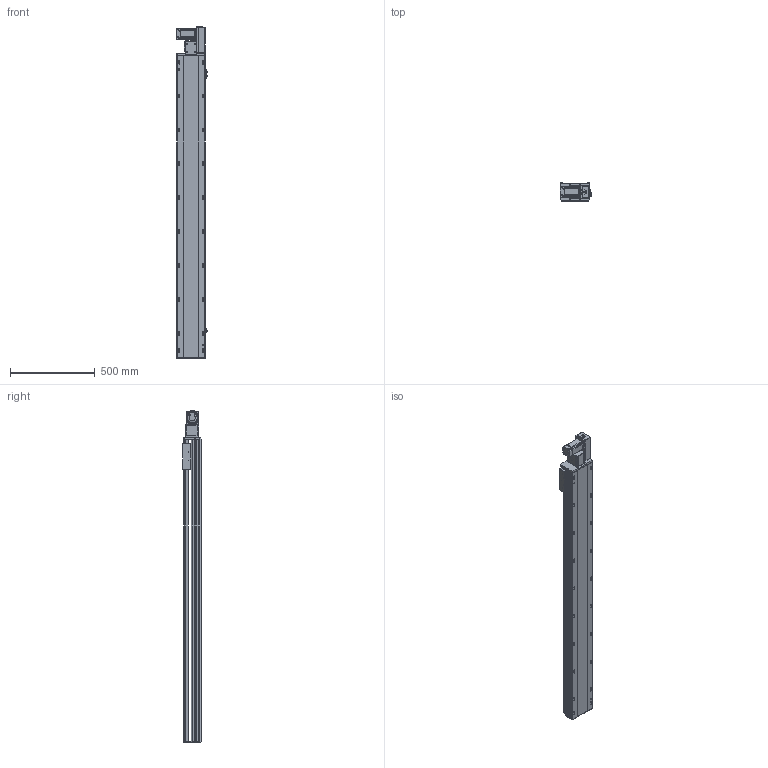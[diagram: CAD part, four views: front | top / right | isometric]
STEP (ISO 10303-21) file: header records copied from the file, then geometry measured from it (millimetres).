
FILE_DESCRIPTION (( 'STEP AP214' ), '1' );
FILE_NAME ('TPT17M-L40-1500-R-T40-C4.STEP', '2023-03-24T06:58:29', ( '' ), ( '' ), 'SwSTEP 2.0', 'SolidWorks 2020', '' );
FILE_SCHEMA (( 'AUTOMOTIVE_DESIGN' ));
Length unit declared in the file: millimetre
Products named in the file (11): TPT17M-L40-1500-R-T40-C4; hexagon head bolts-full thread gb_GB_FASTENER_BOLT_STBAB A M5X16-N; 葩璃 侂狟400W^TPT17M-L40-R-T40-C4; hexagon socket head cap screws gb_GB_FASTENER_SCREWS_HSHCS M3X6-N; 葩璃 TPT14-L-009 萇儂啣^TPT17M-L40-R-T40-C4_400W; 葩璃 TPT17-L-001 菁釱MZ-170-01^TPT17M-L40-R-T40-C4; 葩璃 TPT17-L-005 賑釱MZ-170-07^TPT17M-L40-R-T40-C4; 葩璃 pm-t65-672^TPT17M-L40-R-T40-C4; 葩璃 TPT17-L-002 奻裔MZ-170-05^TPT17M-L40-R-T40-C4; hex nuts, style 1-grades ab gb_GB_FASTENER_NUT_SNAB1 M3-N; 葩璃 TPT17-L-007 々湍釱MZ-169x88^TPT17M-L40-R-T40-C4_TPT17M
Assembly tree (22 placements, depth 2):
  TPT17M-L40-1500-R-T40-C4
    葩璃 TPT17-L-001 菁釱MZ-170-01^TPT17M-L40-R-T40-C4
    葩璃 TPT17-L-002 奻裔MZ-170-05^TPT17M-L40-R-T40-C4
    葩璃 TPT17-L-005 賑釱MZ-170-07^TPT17M-L40-R-T40-C4
    葩璃 TPT17-L-007 々湍釱MZ-169x88^TPT17M-L40-R-T40-C4_TPT17M
    葩璃 TPT14-L-009 萇儂啣^TPT17M-L40-R-T40-C4_400W
    葩璃 pm-t65-672^TPT17M-L40-R-T40-C4  x3
    葩璃 侂狟400W^TPT17M-L40-R-T40-C4
    hexagon socket head cap screws gb_GB_FASTENER_SCREWS_HSHCS M3X6-N  x6
    hex nuts, style 1-grades ab gb_GB_FASTENER_NUT_SNAB1 M3-N  x6
    hexagon head bolts-full thread gb_GB_FASTENER_BOLT_STBAB A M5X16-N
Bounding box: 186.2 x 108 x 1956.65 mm (x, y, z)
Volume: 19238509.6 mm3; surface area: 1935525.6 mm2
Topology: 30 solids, 30 shells, 1771 faces, 4538 edges, 2868 vertices
Faces by surface type: plane 927, cylinder 580, cone 226, bspline 26, torus 12
Entity records: 43093 total; most frequent: CARTESIAN_POINT 8192, DIRECTION 7077, ORIENTED_EDGE 6648, EDGE_CURVE 3324, AXIS2_PLACEMENT_3D 2516, VERTEX_POINT 2159, VECTOR 2045, LINE 2045
